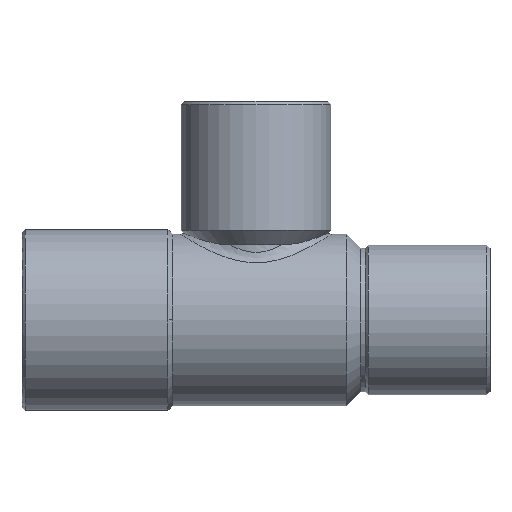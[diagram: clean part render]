
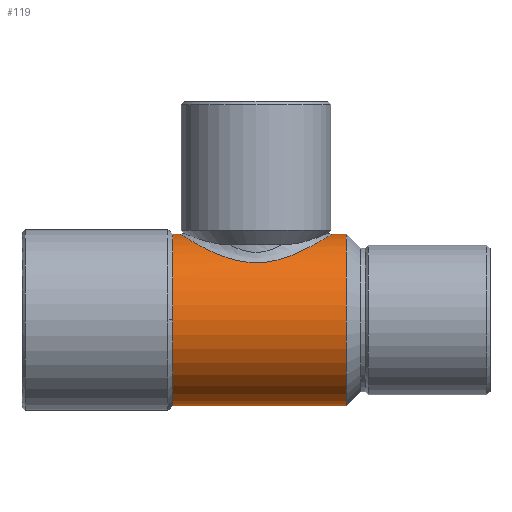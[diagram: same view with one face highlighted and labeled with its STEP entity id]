
A CAD part, top view. The second image highlights one B-rep face of the part: STEP entity #119.
In plain terms, the highlighted cylindrical face has radius 5.5 mm (diameter 11 mm), a partial arc.
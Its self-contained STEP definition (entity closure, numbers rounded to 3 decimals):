
#44=CARTESIAN_POINT('',(0.0,0.,0.0));
#45=DIRECTION('',(1.0,0.,0.0));
#46=DIRECTION('',(0.0,1.0,0.0));
#47=AXIS2_PLACEMENT_3D('',#44,#45,#46);
#48=CYLINDRICAL_SURFACE('',#47,5.5);
#49=CARTESIAN_POINT('',(-5.35,5.5,0.));
#50=VERTEX_POINT('',#49);
#51=CARTESIAN_POINT('',(-4.85,5.5,0.));
#52=VERTEX_POINT('',#51);
#53=CARTESIAN_POINT('',(-5.35,5.5,0.));
#54=DIRECTION('',(1.0,0.0,0.0));
#55=VECTOR('',#54,0.5);
#56=LINE('',#53,#55);
#57=EDGE_CURVE('',#50,#52,#56,.T.);
#58=ORIENTED_EDGE('',*,*,#57,.F.);
#59=CARTESIAN_POINT('',(-5.35,0.,5.5));
#60=VERTEX_POINT('',#59);
#61=CARTESIAN_POINT('',(-5.35,0.,0.0));
#62=DIRECTION('',(1.0,0.0,0.0));
#63=DIRECTION('',(0.0,1.0,0.0));
#64=AXIS2_PLACEMENT_3D('',#61,#62,#63);
#65=CIRCLE('',#64,5.5);
#66=EDGE_CURVE('',#50,#60,#65,.T.);
#67=ORIENTED_EDGE('',*,*,#66,.T.);
#68=CARTESIAN_POINT('',(-5.35,-5.5,0.));
#69=VERTEX_POINT('',#68);
#70=CARTESIAN_POINT('',(-5.35,0.,0.0));
#71=DIRECTION('',(1.0,0.0,0.0));
#72=DIRECTION('',(0.0,1.0,0.0));
#73=AXIS2_PLACEMENT_3D('',#70,#71,#72);
#74=CIRCLE('',#73,5.5);
#75=EDGE_CURVE('',#60,#69,#74,.T.);
#76=ORIENTED_EDGE('',*,*,#75,.T.);
#77=CARTESIAN_POINT('',(5.8,-5.5,0.));
#78=VERTEX_POINT('',#77);
#79=CARTESIAN_POINT('',(5.8,-5.5,0.));
#80=DIRECTION('',(-1.0,0.0,0.0));
#81=VECTOR('',#80,11.15);
#82=LINE('',#79,#81);
#83=EDGE_CURVE('',#78,#69,#82,.T.);
#84=ORIENTED_EDGE('',*,*,#83,.F.);
#85=CARTESIAN_POINT('',(5.8,5.5,0.));
#86=VERTEX_POINT('',#85);
#87=CARTESIAN_POINT('',(5.8,0.,0.0));
#88=DIRECTION('',(-1.0,0.0,0.0));
#89=DIRECTION('',(0.0,1.0,0.0));
#90=AXIS2_PLACEMENT_3D('',#87,#88,#89);
#91=CIRCLE('',#90,5.5);
#92=EDGE_CURVE('',#78,#86,#91,.T.);
#93=ORIENTED_EDGE('',*,*,#92,.T.);
#94=CARTESIAN_POINT('',(4.85,5.5,0.));
#95=VERTEX_POINT('',#94);
#96=CARTESIAN_POINT('',(4.85,5.5,0.));
#97=DIRECTION('',(1.0,0.0,0.0));
#98=VECTOR('',#97,0.95);
#99=LINE('',#96,#98);
#100=EDGE_CURVE('',#95,#86,#99,.T.);
#101=ORIENTED_EDGE('',*,*,#100,.F.);
#102=CARTESIAN_POINT('',(-4.85,5.5,0.));
#103=CARTESIAN_POINT('',(-4.85,5.5,0.79));
#104=CARTESIAN_POINT('',(-4.562,5.313,1.579));
#105=CARTESIAN_POINT('',(-3.553,4.726,2.918));
#106=CARTESIAN_POINT('',(-2.79,4.297,3.462));
#107=CARTESIAN_POINT('',(-1.076,3.723,4.067));
#108=CARTESIAN_POINT('',(-0.127,3.588,4.172));
#109=CARTESIAN_POINT('',(1.647,3.848,3.934));
#110=CARTESIAN_POINT('',(2.434,4.178,3.619));
#111=CARTESIAN_POINT('',(4.134,5.012,2.437));
#112=CARTESIAN_POINT('',(4.85,5.5,1.251));
#113=CARTESIAN_POINT('',(4.85,5.5,0.));
#114=B_SPLINE_CURVE_WITH_KNOTS('',3,(#102,#103,#104,#105,#106,#107,#108,#109,#110,#111,#112,#113),.UNSPECIFIED.,.F.,.U.,(4,2,2,2,2,4),(0.608,0.822,1.066,1.274,1.482,1.823),.UNSPECIFIED.);
#115=EDGE_CURVE('',#52,#95,#114,.T.);
#116=ORIENTED_EDGE('',*,*,#115,.F.);
#117=EDGE_LOOP('',(#58,#67,#76,#84,#93,#101,#116));
#118=FACE_OUTER_BOUND('',#117,.T.);
#119=ADVANCED_FACE('',(#118),#48,.T.);
